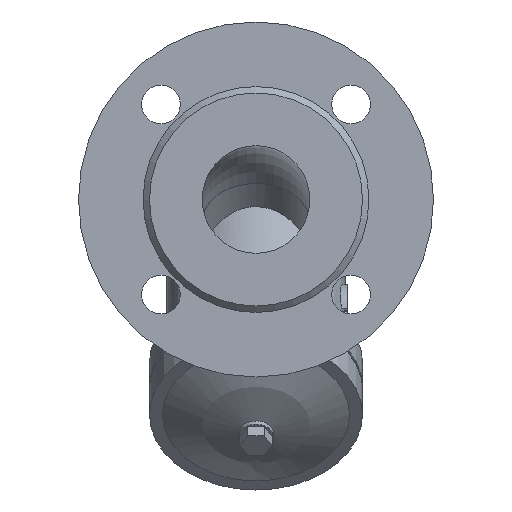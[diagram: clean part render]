
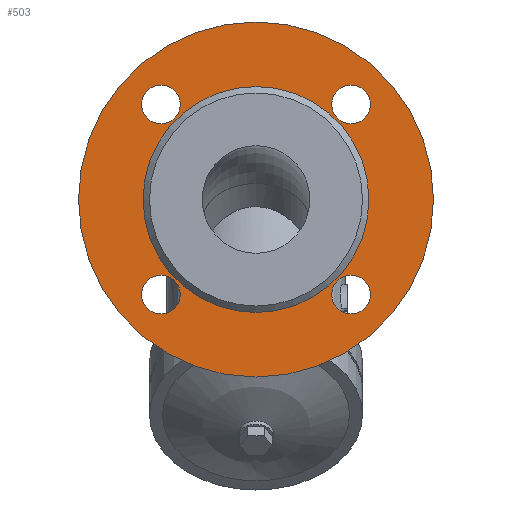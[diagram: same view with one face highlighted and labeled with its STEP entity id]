
A CAD part, front view. The second image highlights one B-rep face of the part: STEP entity #503.
In plain terms, the highlighted planar face has unit normal (0, -1, 0).
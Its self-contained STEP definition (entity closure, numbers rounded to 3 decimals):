
#503=ADVANCED_FACE('',(#1155,#1157,#1159,#1161,#1163,#1165),#1167,.T.);
#1155=FACE_BOUND('',#1156,.T.);
#1156=EDGE_LOOP('',(#1588));
#1157=FACE_BOUND('',#1158,.T.);
#1158=EDGE_LOOP('',(#1589));
#1159=FACE_BOUND('',#1160,.T.);
#1160=EDGE_LOOP('',(#1590));
#1161=FACE_BOUND('',#1162,.T.);
#1162=EDGE_LOOP('',(#1591));
#1163=FACE_BOUND('',#1164,.T.);
#1164=EDGE_LOOP('',(#1592));
#1165=FACE_BOUND('',#1166,.T.);
#1166=EDGE_LOOP('',(#1593));
#1167=PLANE('',#1168);
#1168=AXIS2_PLACEMENT_3D('',#1169,#1170,#1171);
#1169=CARTESIAN_POINT('',(0.,-112.,0.));
#1170=DIRECTION('',(0.,-1.,0.));
#1171=DIRECTION('',(0.,0.,1.));
#1588=ORIENTED_EDGE('',*,*,#1762,.F.);
#1589=ORIENTED_EDGE('',*,*,#1766,.T.);
#1590=ORIENTED_EDGE('',*,*,#1765,.T.);
#1591=ORIENTED_EDGE('',*,*,#1764,.T.);
#1592=ORIENTED_EDGE('',*,*,#1773,.T.);
#1593=ORIENTED_EDGE('',*,*,#1763,.T.);
#1762=EDGE_CURVE('',#1970,#1970,#1971,.T.);
#1763=EDGE_CURVE('',#1972,#1972,#1973,.F.);
#1764=EDGE_CURVE('',#1974,#1974,#1975,.F.);
#1765=EDGE_CURVE('',#1976,#1976,#1977,.F.);
#1766=EDGE_CURVE('',#1978,#1978,#1979,.F.);
#1773=EDGE_CURVE('',#1992,#1992,#1993,.T.);
#1970=VERTEX_POINT('',#3209);
#1971=CIRCLE('',#3210,82.5);
#1972=VERTEX_POINT('',#3214);
#1973=CIRCLE('',#3215,9.);
#1974=VERTEX_POINT('',#3219);
#1975=CIRCLE('',#3220,9.);
#1976=VERTEX_POINT('',#3224);
#1977=CIRCLE('',#3225,9.);
#1978=VERTEX_POINT('',#3229);
#1979=CIRCLE('',#3230,9.);
#1992=VERTEX_POINT('',#3264);
#1993=CIRCLE('',#3265,52.5);
#3209=CARTESIAN_POINT('',(0.,-112.,82.5));
#3210=AXIS2_PLACEMENT_3D('',#3211,#3212,#3213);
#3211=CARTESIAN_POINT('',(0.,-112.,0.));
#3212=DIRECTION('',(0.,1.,0.));
#3213=DIRECTION('',(0.,0.,1.));
#3214=CARTESIAN_POINT('',(-35.194,-112.,44.194));
#3215=AXIS2_PLACEMENT_3D('',#3216,#3217,#3218);
#3216=CARTESIAN_POINT('',(-44.194,-112.,44.194));
#3217=DIRECTION('',(0.,-1.,0.));
#3218=DIRECTION('',(1.,0.,0.));
#3219=CARTESIAN_POINT('',(-44.194,-112.,-35.194));
#3220=AXIS2_PLACEMENT_3D('',#3221,#3222,#3223);
#3221=CARTESIAN_POINT('',(-44.194,-112.,-44.194));
#3222=DIRECTION('',(0.,-1.,0.));
#3223=DIRECTION('',(0.,0.,1.));
#3224=CARTESIAN_POINT('',(35.194,-112.,-44.194));
#3225=AXIS2_PLACEMENT_3D('',#3226,#3227,#3228);
#3226=CARTESIAN_POINT('',(44.194,-112.,-44.194));
#3227=DIRECTION('',(0.,-1.,0.));
#3228=DIRECTION('',(-1.,0.,0.));
#3229=CARTESIAN_POINT('',(44.194,-112.,35.194));
#3230=AXIS2_PLACEMENT_3D('',#3231,#3232,#3233);
#3231=CARTESIAN_POINT('',(44.194,-112.,44.194));
#3232=DIRECTION('',(0.,-1.,0.));
#3233=DIRECTION('',(0.,0.,-1.));
#3264=CARTESIAN_POINT('',(0.,-112.,52.5));
#3265=AXIS2_PLACEMENT_3D('',#3266,#3267,#3268);
#3266=CARTESIAN_POINT('',(0.,-112.,0.));
#3267=DIRECTION('',(0.,1.,0.));
#3268=DIRECTION('',(0.,0.,1.));
